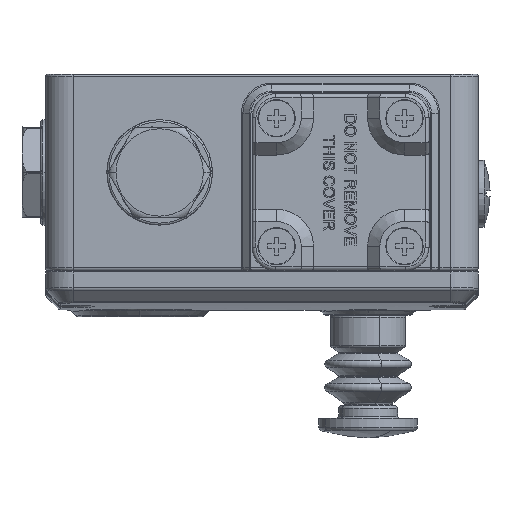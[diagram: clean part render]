
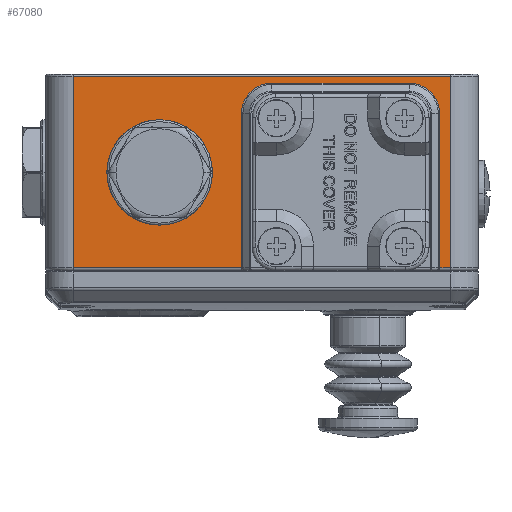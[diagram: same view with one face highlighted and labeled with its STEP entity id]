
A CAD part, left-side view. The second image highlights one B-rep face of the part: STEP entity #67080.
In plain terms, the highlighted planar face has unit normal (-1, 0, 0).
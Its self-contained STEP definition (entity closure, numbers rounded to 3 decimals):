
#669 = CARTESIAN_POINT ( 'NONE',  ( 0., -92.5, 40. ) ) ;
#1301 = EDGE_CURVE ( 'NONE', #22253, #78325, #42302, .T. ) ;
#2439 = CARTESIAN_POINT ( 'NONE',  ( 0., -29., 25. ) ) ;
#3839 = CARTESIAN_POINT ( 'NONE',  ( 0., 0., 47.707 ) ) ;
#5350 = CARTESIAN_POINT ( 'NONE',  ( 0., -49.793, 50. ) ) ;
#6039 = VERTEX_POINT ( 'NONE', #113111 ) ;
#7304 = CARTESIAN_POINT ( 'NONE',  ( 0., -29., 14. ) ) ;
#7587 = CARTESIAN_POINT ( 'NONE',  ( 0., 0., 50. ) ) ;
#8496 = AXIS2_PLACEMENT_3D ( 'NONE', #669, #66917, #10257 ) ;
#10230 = ORIENTED_EDGE ( 'NONE', *, *, #51715, .T. ) ;
#10257 = DIRECTION ( 'NONE',  ( 0., 1., 0. ) ) ;
#12003 = DIRECTION ( 'NONE',  ( 0., 1., 0. ) ) ;
#12577 = LINE ( 'NONE', #34889, #85097 ) ;
#14483 = CARTESIAN_POINT ( 'NONE',  ( 0., -29., 36. ) ) ;
#14728 = DIRECTION ( 'NONE',  ( 0., 0., -1. ) ) ;
#14738 = ORIENTED_EDGE ( 'NONE', *, *, #1301, .T. ) ;
#17122 = ORIENTED_EDGE ( 'NONE', *, *, #41701, .T. ) ;
#18388 = CARTESIAN_POINT ( 'NONE',  ( 0., -7., 49.3 ) ) ;
#19168 = EDGE_CURVE ( 'NONE', #59100, #99404, #38328, .T. ) ;
#20298 = EDGE_CURVE ( 'NONE', #38183, #106183, #27801, .T. ) ;
#20722 = LINE ( 'NONE', #52701, #121493 ) ;
#21292 = LINE ( 'NONE', #34828, #46387 ) ;
#21367 = ORIENTED_EDGE ( 'NONE', *, *, #20298, .T. ) ;
#22253 = VERTEX_POINT ( 'NONE', #104296 ) ;
#22468 = VERTEX_POINT ( 'NONE', #7304 ) ;
#22469 = DIRECTION ( 'NONE',  ( 0., -1., 0. ) ) ;
#24055 = AXIS2_PLACEMENT_3D ( 'NONE', #2439, #68663, #12003 ) ;
#24060 = LINE ( 'NONE', #71005, #71405 ) ;
#25333 = CARTESIAN_POINT ( 'NONE',  ( 0., -57.5, 40. ) ) ;
#26509 = LINE ( 'NONE', #3839, #73923 ) ;
#27280 = VERTEX_POINT ( 'NONE', #112097 ) ;
#27801 = LINE ( 'NONE', #5350, #69231 ) ;
#30337 = CIRCLE ( 'NONE', #65033, 7.707 ) ;
#31932 = ORIENTED_EDGE ( 'NONE', *, *, #19168, .T. ) ;
#31986 = EDGE_CURVE ( 'NONE', #22468, #104180, #44571, .T. ) ;
#33339 = CARTESIAN_POINT ( 'NONE',  ( 0., -100.207, 40. ) ) ;
#33636 = CARTESIAN_POINT ( 'NONE',  ( 0., -49.793, 0.7 ) ) ;
#33938 = FACE_OUTER_BOUND ( 'NONE', #91877, .T. ) ;
#34324 = CARTESIAN_POINT ( 'NONE',  ( 0., -92.5, 47.707 ) ) ;
#34828 = CARTESIAN_POINT ( 'NONE',  ( 0., 0., 0.7 ) ) ;
#34856 = DIRECTION ( 'NONE',  ( 0., 1., 0. ) ) ;
#34889 = CARTESIAN_POINT ( 'NONE',  ( 0., -103., 50. ) ) ;
#35087 = DIRECTION ( 'NONE',  ( 0., 0., 1. ) ) ;
#36088 = DIRECTION ( 'NONE',  ( 1., 0., 0. ) ) ;
#36511 = AXIS2_PLACEMENT_3D ( 'NONE', #113262, #56472, #122824 ) ;
#38183 = VERTEX_POINT ( 'NONE', #33636 ) ;
#38328 = CIRCLE ( 'NONE', #8496, 7.707 ) ;
#39367 = VECTOR ( 'NONE', #93401, 1000. ) ;
#41701 = EDGE_CURVE ( 'NONE', #95408, #27280, #56836, .T. ) ;
#42302 = LINE ( 'NONE', #83844, #39367 ) ;
#44571 = CIRCLE ( 'NONE', #36511, 11. ) ;
#46387 = VECTOR ( 'NONE', #121845, 1000. ) ;
#47847 = CIRCLE ( 'NONE', #24055, 11. ) ;
#50899 = EDGE_CURVE ( 'NONE', #78325, #6039, #12577, .T. ) ;
#51149 = CARTESIAN_POINT ( 'NONE',  ( 0., -49.793, 40. ) ) ;
#51715 = EDGE_CURVE ( 'NONE', #104180, #22468, #47847, .T. ) ;
#52701 = CARTESIAN_POINT ( 'NONE',  ( 0., -100.207, 50. ) ) ;
#53311 = EDGE_LOOP ( 'NONE', ( #10230, #91756 ) ) ;
#55856 = ORIENTED_EDGE ( 'NONE', *, *, #115026, .T. ) ;
#56472 = DIRECTION ( 'NONE',  ( 1., 0., 0. ) ) ;
#56836 = LINE ( 'NONE', #117283, #104347 ) ;
#57229 = EDGE_CURVE ( 'NONE', #106183, #95467, #30337, .T. ) ;
#57630 = ORIENTED_EDGE ( 'NONE', *, *, #50899, .T. ) ;
#59100 = VERTEX_POINT ( 'NONE', #34324 ) ;
#60510 = DIRECTION ( 'NONE',  ( 0., 0., -1. ) ) ;
#65033 = AXIS2_PLACEMENT_3D ( 'NONE', #25333, #91608, #34856 ) ;
#66917 = DIRECTION ( 'NONE',  ( 1., 0., 0. ) ) ;
#67080 = ADVANCED_FACE ( 'NONE', ( #106557, #33938 ), #92831, .F. ) ;
#68663 = DIRECTION ( 'NONE',  ( 1., 0., 0. ) ) ;
#69231 = VECTOR ( 'NONE', #35087, 1000. ) ;
#71005 = CARTESIAN_POINT ( 'NONE',  ( 0., -7., 49.3 ) ) ;
#71405 = VECTOR ( 'NONE', #80561, 1000. ) ;
#72542 = DIRECTION ( 'NONE',  ( 0., 0., 1. ) ) ;
#72878 = EDGE_CURVE ( 'NONE', #99404, #22253, #20722, .T. ) ;
#73416 = EDGE_CURVE ( 'NONE', #95467, #59100, #26509, .T. ) ;
#73923 = VECTOR ( 'NONE', #22469, 1000. ) ;
#76734 = CARTESIAN_POINT ( 'NONE',  ( 0., -57.5, 47.707 ) ) ;
#78325 = VERTEX_POINT ( 'NONE', #82474 ) ;
#79106 = ORIENTED_EDGE ( 'NONE', *, *, #99963, .T. ) ;
#80561 = DIRECTION ( 'NONE',  ( 0., 1., 0. ) ) ;
#80741 = ORIENTED_EDGE ( 'NONE', *, *, #73416, .T. ) ;
#82474 = CARTESIAN_POINT ( 'NONE',  ( 0., -103., 0.7 ) ) ;
#83844 = CARTESIAN_POINT ( 'NONE',  ( 0., 0., 0.7 ) ) ;
#85097 = VECTOR ( 'NONE', #72542, 1000. ) ;
#91608 = DIRECTION ( 'NONE',  ( 1., 0., 0. ) ) ;
#91756 = ORIENTED_EDGE ( 'NONE', *, *, #31986, .T. ) ;
#91877 = EDGE_LOOP ( 'NONE', ( #99294, #14738, #57630, #55856, #17122, #79106, #21367, #121265, #80741, #31932 ) ) ;
#92831 = PLANE ( 'NONE',  #100737 ) ;
#93401 = DIRECTION ( 'NONE',  ( 0., -1., 0. ) ) ;
#95408 = VERTEX_POINT ( 'NONE', #18388 ) ;
#95467 = VERTEX_POINT ( 'NONE', #76734 ) ;
#99294 = ORIENTED_EDGE ( 'NONE', *, *, #72878, .T. ) ;
#99404 = VERTEX_POINT ( 'NONE', #33339 ) ;
#99963 = EDGE_CURVE ( 'NONE', #27280, #38183, #21292, .T. ) ;
#100737 = AXIS2_PLACEMENT_3D ( 'NONE', #7587, #36088, #102345 ) ;
#102345 = DIRECTION ( 'NONE',  ( 0., 1., 0. ) ) ;
#104180 = VERTEX_POINT ( 'NONE', #14483 ) ;
#104296 = CARTESIAN_POINT ( 'NONE',  ( 0., -100.207, 0.7 ) ) ;
#104347 = VECTOR ( 'NONE', #60510, 1000. ) ;
#106183 = VERTEX_POINT ( 'NONE', #51149 ) ;
#106557 = FACE_BOUND ( 'NONE', #53311, .T. ) ;
#112097 = CARTESIAN_POINT ( 'NONE',  ( 0., -7., 0.7 ) ) ;
#113111 = CARTESIAN_POINT ( 'NONE',  ( 0., -103., 49.3 ) ) ;
#113262 = CARTESIAN_POINT ( 'NONE',  ( 0., -29., 25. ) ) ;
#115026 = EDGE_CURVE ( 'NONE', #6039, #95408, #24060, .T. ) ;
#117283 = CARTESIAN_POINT ( 'NONE',  ( 0., -7., 50. ) ) ;
#121265 = ORIENTED_EDGE ( 'NONE', *, *, #57229, .T. ) ;
#121493 = VECTOR ( 'NONE', #14728, 1000. ) ;
#121845 = DIRECTION ( 'NONE',  ( 0., -1., 0. ) ) ;
#122824 = DIRECTION ( 'NONE',  ( 0., 1., 0. ) ) ;
